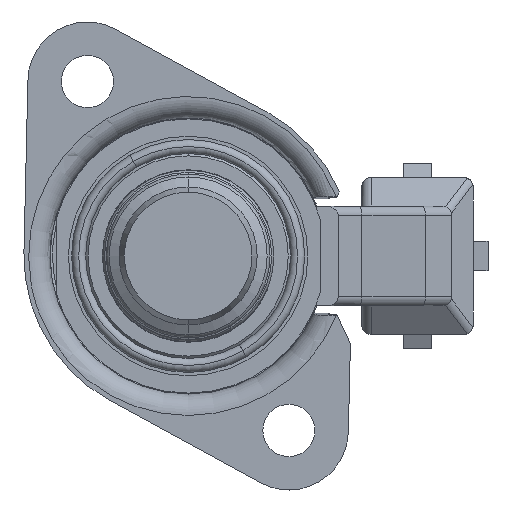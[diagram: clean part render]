
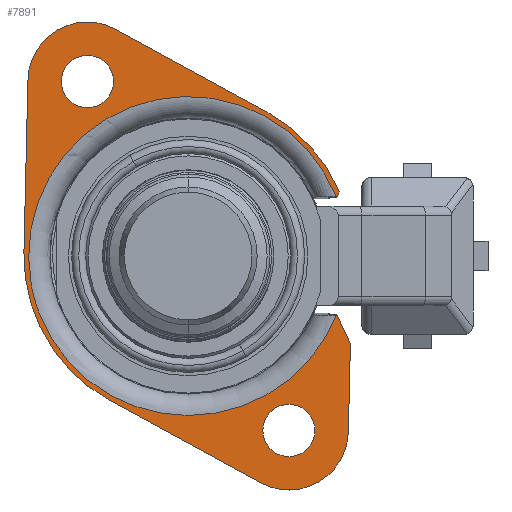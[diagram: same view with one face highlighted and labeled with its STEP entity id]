
A CAD part, front view. The second image highlights one B-rep face of the part: STEP entity #7891.
In plain terms, the highlighted planar face has unit normal (0, -1, 0).
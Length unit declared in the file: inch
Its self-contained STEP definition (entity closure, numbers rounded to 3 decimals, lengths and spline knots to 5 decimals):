
#1006=CARTESIAN_POINT('',(0.6218,0.,0.24952));
#1350=DIRECTION('',(0.423,0.,-0.906));
#1351=VECTOR('',#1350,0.13123);
#1352=CARTESIAN_POINT('',(0.62622,0.,-0.24952));
#1353=LINE('',#1352,#1351);
#1354=DIRECTION('',(-0.023,0.,-1.));
#1355=VECTOR('',#1354,0.37042);
#1356=CARTESIAN_POINT('',(0.68168,0.,-0.36845));
#1357=LINE('',#1356,#1355);
#1358=CARTESIAN_POINT('',(0.4232,0.,-0.733));
#1359=DIRECTION('',(0.,1.,0.));
#1360=DIRECTION('',(1.,0.,-0.023));
#1361=AXIS2_PLACEMENT_3D('',#1358,#1359,#1360);
#1363=CARTESIAN_POINT('',(0.4232,0.,-0.733));
#1364=DIRECTION('',(0.,1.,0.));
#1365=DIRECTION('',(0.5,0.,-0.866));
#1366=AXIS2_PLACEMENT_3D('',#1363,#1364,#1365);
#1368=DIRECTION('',(-0.877,0.,0.48));
#1369=VECTOR('',#1368,0.72304);
#1370=CARTESIAN_POINT('',(0.30323,0.,-0.95234));
#1371=LINE('',#1370,#1369);
#1372=CARTESIAN_POINT('',(0.,0.,0.));
#1373=DIRECTION('',(0.,1.,0.));
#1374=DIRECTION('',(-0.48,0.,-0.877));
#1375=AXIS2_PLACEMENT_3D('',#1372,#1373,#1374);
#1377=DIRECTION('',(0.023,0.,1.));
#1378=VECTOR('',#1377,0.72304);
#1379=CARTESIAN_POINT('',(-0.68982,0.,0.01592));
#1380=LINE('',#1379,#1378);
#1381=CARTESIAN_POINT('',(-0.4232,0.,0.733));
#1382=DIRECTION('',(0.,1.,0.));
#1383=DIRECTION('',(-1.,0.,0.023));
#1384=AXIS2_PLACEMENT_3D('',#1381,#1382,#1383);
#1386=CARTESIAN_POINT('',(-0.4232,0.,0.733));
#1387=DIRECTION('',(0.,1.,0.));
#1388=DIRECTION('',(-0.5,0.,0.866));
#1389=AXIS2_PLACEMENT_3D('',#1386,#1387,#1388);
#1391=DIRECTION('',(0.877,0.,-0.48));
#1392=VECTOR('',#1391,0.72304);
#1393=CARTESIAN_POINT('',(-0.30323,0.,0.95234));
#1394=LINE('',#1393,#1392);
#1395=CARTESIAN_POINT('',(0.,0.,0.));
#1396=DIRECTION('',(0.,1.,0.));
#1397=DIRECTION('',(0.48,0.,0.877));
#1398=AXIS2_PLACEMENT_3D('',#1395,#1396,#1397);
#1400=DIRECTION('',(-0.423,0.,-0.906));
#1401=VECTOR('',#1400,0.02162);
#1402=CARTESIAN_POINT('',(0.63536,0.,0.26911));
#1403=LINE('',#1402,#1401);
#1404=DIRECTION('',(-1.,0.,0.));
#1405=VECTOR('',#1404,0.00442);
#1406=CARTESIAN_POINT('',(0.62622,0.,0.24952));
#1407=LINE('',#1406,#1405);
#1408=CARTESIAN_POINT('',(0.,0.,0.));
#1409=DIRECTION('',(0.,-1.,0.));
#1410=DIRECTION('',(0.928,0.,0.372));
#1411=AXIS2_PLACEMENT_3D('',#1408,#1409,#1410);
#1413=CARTESIAN_POINT('',(0.,0.,0.));
#1414=DIRECTION('',(0.,-1.,0.));
#1415=DIRECTION('',(-0.983,0.,-0.182));
#1416=AXIS2_PLACEMENT_3D('',#1413,#1414,#1415);
#1418=CARTESIAN_POINT('',(0.,0.,0.));
#1419=DIRECTION('',(0.,-1.,0.));
#1420=DIRECTION('',(-0.928,0.,-0.372));
#1421=AXIS2_PLACEMENT_3D('',#1418,#1419,#1420);
#1423=DIRECTION('',(1.,0.,0.));
#1424=VECTOR('',#1423,0.00442);
#1425=CARTESIAN_POINT('',(0.6218,0.,-0.24952));
#1426=LINE('',#1425,#1424);
#1427=CARTESIAN_POINT('',(0.4232,0.,-0.733));
#1428=DIRECTION('',(0.,-1.,0.));
#1429=DIRECTION('',(-0.5,0.,0.866));
#1430=AXIS2_PLACEMENT_3D('',#1427,#1428,#1429);
#1432=CARTESIAN_POINT('',(0.4232,0.,-0.733));
#1433=DIRECTION('',(0.,-1.,0.));
#1434=DIRECTION('',(0.5,0.,-0.866));
#1435=AXIS2_PLACEMENT_3D('',#1432,#1433,#1434);
#1437=CARTESIAN_POINT('',(-0.4232,0.,0.733));
#1438=DIRECTION('',(0.,-1.,0.));
#1439=DIRECTION('',(-0.5,0.,0.866));
#1440=AXIS2_PLACEMENT_3D('',#1437,#1438,#1439);
#1442=CARTESIAN_POINT('',(-0.4232,0.,0.733));
#1443=DIRECTION('',(0.,-1.,0.));
#1444=DIRECTION('',(0.5,0.,-0.866));
#1445=AXIS2_PLACEMENT_3D('',#1442,#1443,#1444);
#5442=VERTEX_POINT('',#1006);
#5443=CARTESIAN_POINT('',(0.62622,0.,0.24952));
#5444=VERTEX_POINT('',#5443);
#5521=CARTESIAN_POINT('',(0.62622,0.,-0.24952));
#5522=VERTEX_POINT('',#5521);
#5523=CARTESIAN_POINT('',(0.6218,0.,-0.24952));
#5524=VERTEX_POINT('',#5523);
#5549=CARTESIAN_POINT('',(-0.65886,0.,-0.12166));
#5550=VERTEX_POINT('',#5549);
#5551=CARTESIAN_POINT('',(-0.6218,0.,-0.24952));
#5552=VERTEX_POINT('',#5551);
#5553=CARTESIAN_POINT('',(0.68168,0.,-0.36845));
#5554=VERTEX_POINT('',#5553);
#5555=CARTESIAN_POINT('',(0.67313,0.,-0.73877));
#5556=VERTEX_POINT('',#5555);
#5557=CARTESIAN_POINT('',(0.5482,0.,-0.94951));
#5558=VERTEX_POINT('',#5557);
#5559=CARTESIAN_POINT('',(0.30323,0.,-0.95234));
#5560=VERTEX_POINT('',#5559);
#5561=CARTESIAN_POINT('',(-0.33112,0.,-0.60536));
#5562=VERTEX_POINT('',#5561);
#5563=CARTESIAN_POINT('',(-0.68982,0.,0.01592));
#5564=VERTEX_POINT('',#5563);
#5565=CARTESIAN_POINT('',(-0.67313,0.,0.73877));
#5566=VERTEX_POINT('',#5565);
#5567=CARTESIAN_POINT('',(-0.5482,0.,0.94951));
#5568=CARTESIAN_POINT('',(-0.30323,0.,0.95234));
#5569=VERTEX_POINT('',#5567);
#5570=VERTEX_POINT('',#5568);
#5571=CARTESIAN_POINT('',(0.33112,0.,0.60536));
#5572=VERTEX_POINT('',#5571);
#5573=CARTESIAN_POINT('',(0.63536,0.,0.26911));
#5574=VERTEX_POINT('',#5573);
#5575=CARTESIAN_POINT('',(0.36845,0.,-0.63817));
#5576=CARTESIAN_POINT('',(0.47795,0.,-0.82783));
#5577=VERTEX_POINT('',#5575);
#5578=VERTEX_POINT('',#5576);
#5579=CARTESIAN_POINT('',(-0.47795,0.,0.82783));
#5580=CARTESIAN_POINT('',(-0.36845,0.,0.63817));
#5581=VERTEX_POINT('',#5579);
#5582=VERTEX_POINT('',#5580);
#7843=CARTESIAN_POINT('',(0.,0.,0.));
#7844=DIRECTION('',(0.,-1.,0.));
#7845=DIRECTION('',(0.5,0.,-0.866));
#7846=AXIS2_PLACEMENT_3D('',#7843,#7844,#7845);
#7847=PLANE('',#7846);
#7849=ORIENTED_EDGE('',*,*,#7848,.T.);
#7851=ORIENTED_EDGE('',*,*,#7850,.T.);
#7853=ORIENTED_EDGE('',*,*,#7852,.T.);
#7855=ORIENTED_EDGE('',*,*,#7854,.T.);
#7857=ORIENTED_EDGE('',*,*,#7856,.T.);
#7859=ORIENTED_EDGE('',*,*,#7858,.T.);
#7861=ORIENTED_EDGE('',*,*,#7860,.T.);
#7863=ORIENTED_EDGE('',*,*,#7862,.T.);
#7865=ORIENTED_EDGE('',*,*,#7864,.T.);
#7867=ORIENTED_EDGE('',*,*,#7866,.T.);
#7869=ORIENTED_EDGE('',*,*,#7868,.T.);
#7871=ORIENTED_EDGE('',*,*,#7870,.T.);
#7872=ORIENTED_EDGE('',*,*,#7522,.T.);
#7873=ORIENTED_EDGE('',*,*,#7837,.T.);
#7874=ORIENTED_EDGE('',*,*,#7835,.T.);
#7875=ORIENTED_EDGE('',*,*,#7833,.T.);
#7876=ORIENTED_EDGE('',*,*,#7434,.T.);
#7877=EDGE_LOOP('',(#7849,#7851,#7853,#7855,#7857,#7859,#7861,#7863,#7865,#7867,
#7869,#7871,#7872,#7873,#7874,#7875,#7876));
#7878=FACE_OUTER_BOUND('',#7877,.F.);
#7880=ORIENTED_EDGE('',*,*,#7879,.T.);
#7882=ORIENTED_EDGE('',*,*,#7881,.T.);
#7883=EDGE_LOOP('',(#7880,#7882));
#7884=FACE_BOUND('',#7883,.F.);
#7886=ORIENTED_EDGE('',*,*,#7885,.T.);
#7888=ORIENTED_EDGE('',*,*,#7887,.T.);
#7889=EDGE_LOOP('',(#7886,#7888));
#7890=FACE_BOUND('',#7889,.F.);
#7891=ADVANCED_FACE('',(#7878,#7884,#7890),#7847,.T.);
#1362=CIRCLE('',#1361,0.25);
#1367=CIRCLE('',#1366,0.25);
#1376=CIRCLE('',#1375,0.69);
#1385=CIRCLE('',#1384,0.25);
#1390=CIRCLE('',#1389,0.25);
#1399=CIRCLE('',#1398,0.69);
#1412=CIRCLE('',#1411,0.67);
#1417=CIRCLE('',#1416,0.67);
#1422=CIRCLE('',#1421,0.67);
#1431=CIRCLE('',#1430,0.1095);
#1436=CIRCLE('',#1435,0.1095);
#1441=CIRCLE('',#1440,0.1095);
#1446=CIRCLE('',#1445,0.1095);
#7434=EDGE_CURVE('',#5524,#5522,#1426,.T.);
#7522=EDGE_CURVE('',#5444,#5442,#1407,.T.);
#7833=EDGE_CURVE('',#5552,#5524,#1422,.T.);
#7835=EDGE_CURVE('',#5550,#5552,#1417,.T.);
#7837=EDGE_CURVE('',#5442,#5550,#1412,.T.);
#7848=EDGE_CURVE('',#5522,#5554,#1353,.T.);
#7850=EDGE_CURVE('',#5554,#5556,#1357,.T.);
#7852=EDGE_CURVE('',#5556,#5558,#1362,.T.);
#7854=EDGE_CURVE('',#5558,#5560,#1367,.T.);
#7856=EDGE_CURVE('',#5560,#5562,#1371,.T.);
#7858=EDGE_CURVE('',#5562,#5564,#1376,.T.);
#7860=EDGE_CURVE('',#5564,#5566,#1380,.T.);
#7862=EDGE_CURVE('',#5566,#5569,#1385,.T.);
#7864=EDGE_CURVE('',#5569,#5570,#1390,.T.);
#7866=EDGE_CURVE('',#5570,#5572,#1394,.T.);
#7868=EDGE_CURVE('',#5572,#5574,#1399,.T.);
#7870=EDGE_CURVE('',#5574,#5444,#1403,.T.);
#7879=EDGE_CURVE('',#5577,#5578,#1431,.T.);
#7881=EDGE_CURVE('',#5578,#5577,#1436,.T.);
#7885=EDGE_CURVE('',#5581,#5582,#1441,.T.);
#7887=EDGE_CURVE('',#5582,#5581,#1446,.T.);
